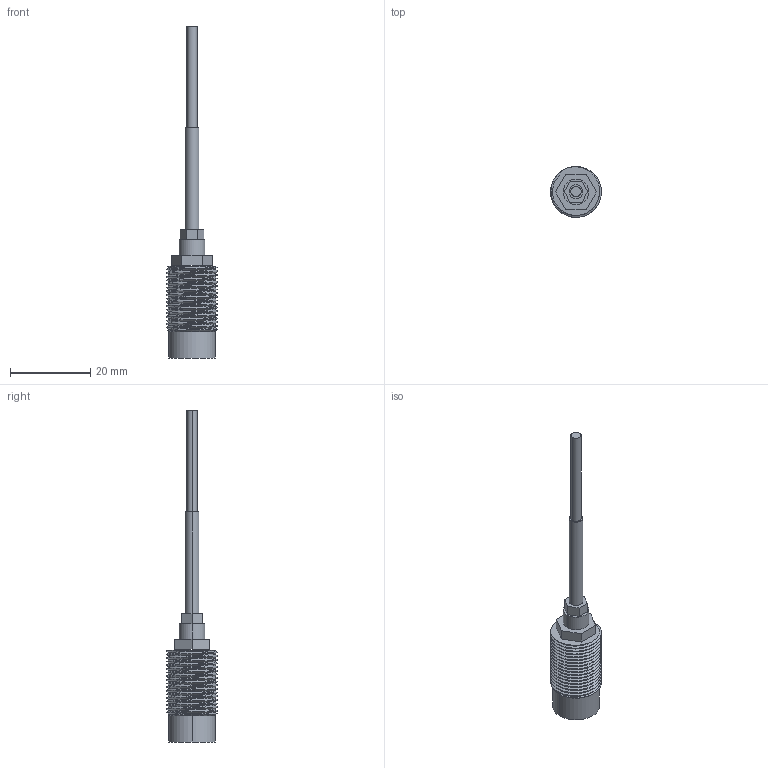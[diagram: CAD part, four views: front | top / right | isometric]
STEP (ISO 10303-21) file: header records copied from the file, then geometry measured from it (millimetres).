
FILE_DESCRIPTION (( 'STEP AP203' ), '1' );
FILE_NAME ('12U.STEP', '2010-03-05T18:57:23', ( 'tom edwards' ), ( 'Tom J. Edwards' ), 'SwSTEP 2.0', 'SolidWorks 2008', '' );
FILE_SCHEMA (( 'CONFIG_CONTROL_DESIGN' ));
Length unit declared in the file: inch
Products named in the file (1): 12U
Bounding box: 12.7 x 12.7 x 82.8 mm (x, y, z)
Volume: 3310.1 mm3; surface area: 2414.2 mm2
Topology: 5 solids, 5 shells, 73 faces, 183 edges, 121 vertices
Faces by surface type: cylinder 44, plane 23, cone 3, bspline 3
Entity records: 7104 total; most frequent: CARTESIAN_POINT 5508, ORIENTED_EDGE 366, DIRECTION 262, EDGE_CURVE 183, VERTEX_POINT 121, AXIS2_PLACEMENT_3D 90, LINE 82, VECTOR 82
